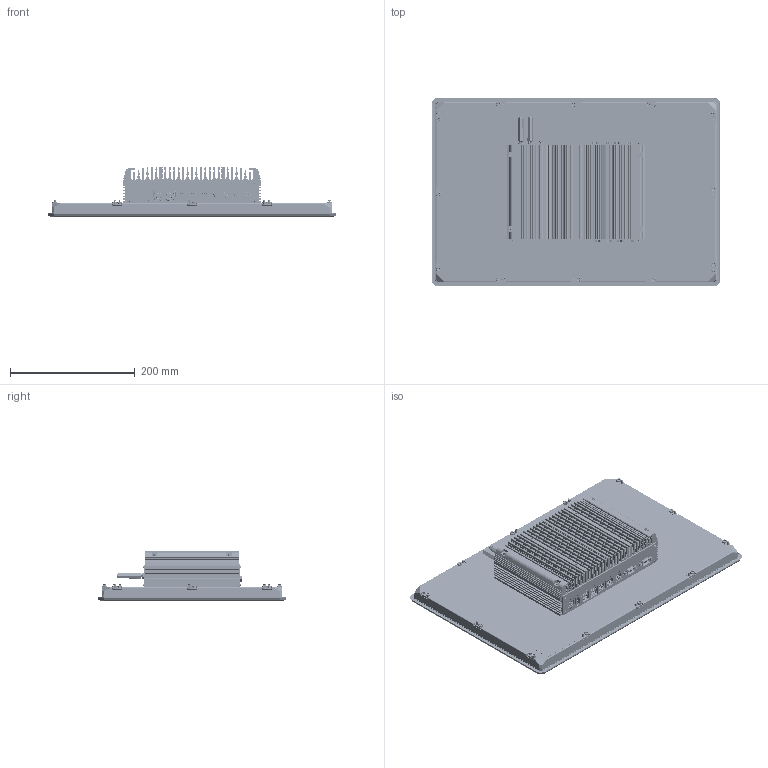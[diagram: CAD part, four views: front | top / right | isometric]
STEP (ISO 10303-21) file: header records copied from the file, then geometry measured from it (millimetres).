
FILE_DESCRIPTION (( 'STEP AP214' ), '1' );
FILE_NAME ('IDD22185--.STEP', '2024-04-25T10:31:41', ( '' ), ( '' ), 'SwSTEP 2.0', 'SolidWorks 2018', '' );
FILE_SCHEMA (( 'AUTOMOTIVE_DESIGN' ));
Length unit declared in the file: millimetre
Products named in the file (1): IDD22185--
Bounding box: 462.8 x 302.8 x 81.5 mm (x, y, z)
Topology: 0 solids, 1659 shells, 23030 faces, 63907 edges, 42936 vertices
Faces by surface type: plane 12252, cylinder 5310, bspline 4661, torus 554, cone 234, sphere 19
Entity records: 1278180 total; most frequent: CARTESIAN_POINT 483451, ORIENTED_EDGE 117433, DIRECTION 92599, EDGE_CURVE 63713, VERTEX_POINT 42938, VECTOR 38581, LINE 38581, AXIS2_PLACEMENT_3D 27009
